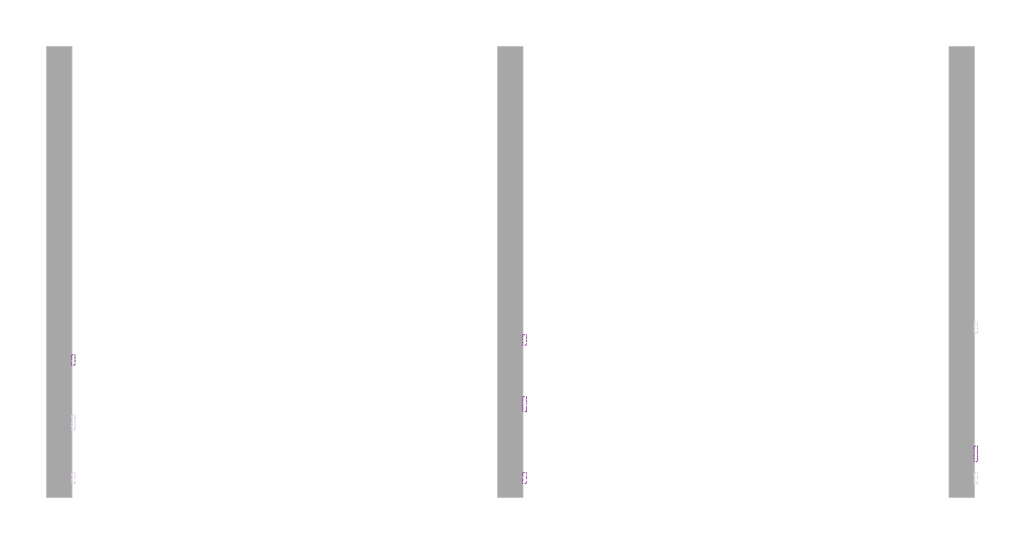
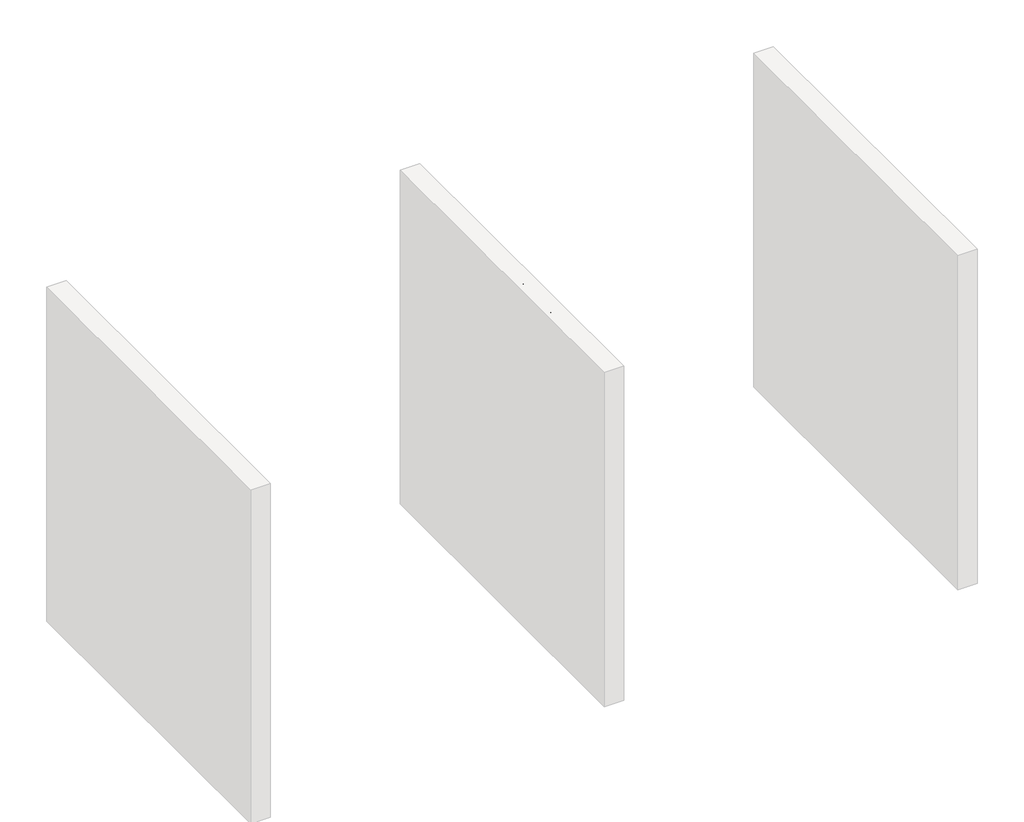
# One storey, part 2 of 17: 5 proxies.
"""IFC4 building model written with IfcOpenShell, lengths in millimetres."""

from ifc_helpers import new_model, si_unit, frame, origin, place, context, project, spatial, polyline, outline, extrude, element, save

model = new_model("IFC4")

# Units and contexts
model_context = context("Model", 3, world=origin())
ifc_project = project(units=[si_unit("LENGTHUNIT", "METRE", prefix="MILLI")], contexts=[model_context])

# Site, building, storey
site = spatial("IfcSite", under=ifc_project)
building = spatial("IfcBuilding", under=site)
storey = spatial("IfcBuildingStorey", under=building, Name="PORTOBELLO - SHOWROOM", Elevation=0.0)

# Proxies
placement = place(None, origin())
element("IfcBuildingElementProxy", 1, Name="10mm Arial", ObjectType="10mm Arial", at=placement, inside=storey, context=model_context, shape_type="SweptSolid", body=[
    extrude(outline(polyline([(-7615.2757787, 2518.4745677), (-7655.2277634, 2618.9308778), (-7641.7878078, 2618.9308778), (-7615.030524, 2546.5562266), (-7609.610396, 2530.2467915), (-7604.2638443, 2546.5562266), (-7577.4329841, 2618.9308778), (-7564.017554, 2618.9308778), (-7602.3263325, 2518.4745677), (-7615.2757787, 2518.4745677)])), frame((-13022.2794626, 0.0, 0.0), z_axis=(1.0, 0.0, 0.0), x_axis=(0.0, 1.0, 0.0)), (0.0, 0.0, 1.0), 20.0),
    extrude(outline(polyline([(-7502.2379043, 2540.4493855), (-7489.9261202, 2538.8797557), (-7494.3621639, 2529.602998), (-7501.4408267, 2522.6684224), (-7511.0026929, 2518.345809), (-7522.888347, 2516.9049378), (-7537.6220209, 2519.391207), (-7548.9589177, 2526.8500144), (-7556.1877989, 2538.7969822), (-7558.597426, 2554.7477324), (-7556.1632734, 2571.2349771), (-7548.8608158, 2583.5651553), (-7537.6772032, 2591.253889), (-7523.5995855, 2593.8168003), (-7509.9603605, 2591.2600204), (-7499.0618564, 2583.5896808), (-7491.9157487, 2571.2840281), (-7489.5337128, 2554.8213088), (-7489.6072892, 2551.4367944), (-7546.0403872, 2551.4367944), (-7543.8668178, 2542.0374095), (-7538.8176374, 2535.1273593), (-7531.5305082, 2530.8783223), (-7522.6430923, 2529.4619766), (-7510.3313082, 2532.0862015), (-7502.2379043, 2540.4493855)]), holes=[polyline([(-7546.0403872, 2563.9938332), (-7502.0907515, 2563.9938332), (-7507.1184721, 2575.3736496), (-7514.4393238, 2579.7882335), (-7523.6486364, 2581.2597615), (-7539.111943, 2576.5631347), (-7543.9771824, 2571.0724959), (-7546.0403872, 2563.9938332)])]), frame((-13022.2794626, 0.0, 0.0), z_axis=(1.0, 0.0, 0.0), x_axis=(0.0, 1.0, 0.0)), (0.0, 0.0, 1.0), 20.0),
    extrude(outline(polyline([(-13002.2794626, -7464.4196352), (-13002.2794626, -7476.976674), (-13022.2794626, -7476.976674), (-13022.2794626, -7464.4196352), (-13002.2794626, -7464.4196352)])), frame((0.0, 0.0, 2518.4745677), z_axis=(0.0, 0.0, 1.0), x_axis=(1.0, 0.0, 0.0)), (0.0, 0.0, 1.0), 100.4563101),
    extrude(outline(polyline([(-7427.435232, 2518.4745677), (-7453.4322263, 2592.2471704), (-7440.163949, 2592.2471704), (-7424.4185996, 2548.0522801), (-7419.6851846, 2533.1898475), (-7415.0498715, 2547.2184142), (-7399.2309457, 2592.2471704), (-7385.9381429, 2592.2471704), (-7411.5672552, 2518.4745677), (-7427.435232, 2518.4745677)])), frame((-13022.2794626, 0.0, 0.0), z_axis=(1.0, 0.0, 0.0), x_axis=(0.0, 1.0, 0.0)), (0.0, 0.0, 1.0), 20.0),
    extrude(outline(polyline([(-7323.3001019, 2540.4493855), (-7310.9883178, 2538.8797557), (-7315.4243615, 2529.602998), (-7322.5030242, 2522.6684224), (-7332.0648904, 2518.345809), (-7343.9505445, 2516.9049378), (-7358.6842184, 2519.391207), (-7370.0211153, 2526.8500144), (-7377.2499965, 2538.7969822), (-7379.6596235, 2554.7477324), (-7377.225471, 2571.2349771), (-7369.9230134, 2583.5651553), (-7358.7394007, 2591.253889), (-7344.6617831, 2593.8168003), (-7331.0225581, 2591.2600204), (-7320.124054, 2583.5896808), (-7312.9779462, 2571.2840281), (-7310.5959103, 2554.8213088), (-7310.6694867, 2551.4367944), (-7367.1025848, 2551.4367944), (-7364.9290153, 2542.0374095), (-7359.8798349, 2535.1273593), (-7352.5927057, 2530.8783223), (-7343.7052899, 2529.4619766), (-7331.3935058, 2532.0862015), (-7323.3001019, 2540.4493855)]), holes=[polyline([(-7367.1025848, 2563.9938332), (-7323.1529491, 2563.9938332), (-7328.1806697, 2575.3736496), (-7335.5015214, 2579.7882335), (-7344.710834, 2581.2597615), (-7360.1741405, 2576.5631347), (-7365.0393799, 2571.0724959), (-7367.1025848, 2563.9938332)])]), frame((-13022.2794626, 0.0, 0.0), z_axis=(1.0, 0.0, 0.0), x_axis=(0.0, 1.0, 0.0)), (0.0, 0.0, 1.0), 20.0),
    extrude(outline(polyline([(-7271.3551641, 2528.9469418), (-7269.7855343, 2518.1066857), (-7279.1787879, 2516.9049378), (-7289.700213, 2518.9896025), (-7294.9486628, 2524.4587815), (-7296.4692417, 2538.7080774), (-7296.4692417, 2579.6901317), (-7305.8870208, 2579.6901317), (-7305.8870208, 2592.2471704), (-7296.4692417, 2592.2471704), (-7296.4692417, 2610.1752863), (-7283.9122029, 2617.5574517), (-7283.9122029, 2592.2471704), (-7271.3551641, 2592.2471704), (-7271.3551641, 2579.6901317), (-7283.9122029, 2579.6901317), (-7283.9122029, 2539.0759594), (-7283.2500153, 2532.6012363), (-7281.104037, 2530.3081052), (-7276.8243431, 2529.4619766), (-7271.3551641, 2528.9469418)])), frame((-13022.2794626, 0.0, 0.0), z_axis=(1.0, 0.0, 0.0), x_axis=(0.0, 1.0, 0.0)), (0.0, 0.0, 1.0), 20.0),
    extrude(outline(polyline([(-7170.898854, 2557.7153138), (-7170.898854, 2570.2723526), (-7130.088478, 2570.2723526), (-7130.088478, 2532.7238636), (-7150.2361486, 2520.8780634), (-7171.5365161, 2516.9049378), (-7185.6233309, 2518.4837647), (-7198.3551136, 2523.2202454), (-7208.9317209, 2530.948833), (-7216.5530096, 2541.5039806), (-7221.1607316, 2554.1652526), (-7222.6966389, 2568.2122134), (-7221.166863, 2582.3603418), (-7216.5775351, 2595.5213202), (-7209.1187276, 2606.5608457), (-7198.980513, 2614.3446156), (-7186.6319407, 2618.9615346), (-7172.5420602, 2620.5005077), (-7152.8971617, 2616.9320523), (-7139.1261123, 2606.9992384), (-7131.5354805, 2590.383235), (-7143.1115006, 2587.121348), (-7148.838197, 2598.7341563), (-7158.6238581, 2605.4296086), (-7172.738264, 2607.9434689), (-7188.8147072, 2605.2334049), (-7199.7530652, 2598.1210196), (-7206.2155255, 2588.4457231), (-7210.1396001, 2568.7272482), (-7205.4184479, 2546.8382695), (-7191.6841867, 2533.7416705), (-7172.5420602, 2529.4619766), (-7155.3619711, 2532.6870754), (-7142.6455168, 2539.5664687), (-7142.6455168, 2557.7153138), (-7170.898854, 2557.7153138)])), frame((-13022.2794626, 0.0, 0.0), z_axis=(1.0, 0.0, 0.0), x_axis=(0.0, 1.0, 0.0)), (0.0, 0.0, 1.0), 20.0),
    extrude(outline(polyline([(-7111.2529198, 2518.4745677), (-7111.2529198, 2592.2471704), (-7100.2655109, 2592.2471704), (-7100.2655109, 2581.3333379), (-7092.4664126, 2591.3887791), (-7084.6182634, 2593.8168003), (-7072.0121737, 2589.9417766), (-7076.2060284, 2578.6845875), (-7085.0351963, 2581.2597615), (-7092.1353188, 2578.7826894), (-7096.6602674, 2571.9155588), (-7098.6958811, 2557.24933), (-7098.6958811, 2518.4745677), (-7111.2529198, 2518.4745677)])), frame((-13022.2794626, 0.0, 0.0), z_axis=(1.0, 0.0, 0.0), x_axis=(0.0, 1.0, 0.0)), (0.0, 0.0, 1.0), 20.0),
    extrude(outline(polyline([(-7017.0751291, 2527.8923467), (-7029.2520231, 2519.3820099), (-7042.7042414, 2516.9049378), (-7053.1980753, 2518.3948599), (-7060.9389256, 2522.8646261), (-7065.7121945, 2529.6520489), (-7067.3032842, 2538.0949407), (-7064.8997885, 2548.0277546), (-7058.5844809, 2555.2382417), (-7049.7921012, 2559.3585201), (-7038.9273196, 2561.246981), (-7017.1487055, 2565.563463), (-7017.0751291, 2568.3593662), (-7020.5332198, 2577.6299925), (-7034.4146338, 2581.2597615), (-7047.1188254, 2578.8440031), (-7053.1766155, 2570.2723526), (-7065.7336543, 2571.8419824), (-7060.3012635, 2584.1047156), (-7049.3629055, 2591.2906772), (-7032.795953, 2593.8168003), (-7017.5779011, 2591.5849828), (-7008.9817252, 2585.9809138), (-7005.131227, 2577.4583142), (-7004.5180903, 2566.4709053), (-7004.5180903, 2550.8481832), (-7003.8804282, 2529.0327809), (-7001.3788306, 2518.4745677), (-7013.9358694, 2518.4745677), (-7017.0751291, 2527.8923467)]), holes=[polyline([(-7017.0751291, 2553.0064243), (-7037.3331643, 2549.1559261), (-7048.1366322, 2547.1203124), (-7053.0294627, 2543.8093744), (-7054.7462454, 2538.9778575), (-7051.0061118, 2532.1843033), (-7040.0309656, 2529.4619766), (-7027.326774, 2532.4663462), (-7019.1352683, 2539.738147), (-7017.1487055, 2549.4502317), (-7017.0751291, 2553.0064243)])]), frame((-13022.2794626, 0.0, 0.0), z_axis=(1.0, 0.0, 0.0), x_axis=(0.0, 1.0, 0.0)), (0.0, 0.0, 1.0), 20.0),
    extrude(outline(polyline([(-6984.1129023, 2518.4745677), (-6984.1129023, 2579.6901317), (-6995.1003112, 2579.6901317), (-6995.1003112, 2592.2471704), (-6984.1129023, 2592.2471704), (-6984.1129023, 2599.6783867), (-6982.7885271, 2610.1507609), (-6976.3628549, 2617.6310281), (-6963.7077143, 2620.5005077), (-6952.2543215, 2619.1270815), (-6954.0937315, 2607.3548577), (-6961.3287441, 2607.9434689), (-6969.238207, 2605.8588043), (-6971.5558635, 2598.0842314), (-6971.5558635, 2592.2471704), (-6957.4291949, 2592.2471704), (-6957.4291949, 2579.6901317), (-6971.5558635, 2579.6901317), (-6971.5558635, 2518.4745677), (-6984.1129023, 2518.4745677)])), frame((-13022.2794626, 0.0, 0.0), z_axis=(1.0, 0.0, 0.0), x_axis=(0.0, 1.0, 0.0)), (0.0, 0.0, 1.0), 20.0),
    extrude(outline(polyline([(-6943.3025263, 2518.4745677), (-6943.3025263, 2579.6901317), (-6954.2899352, 2579.6901317), (-6954.2899352, 2592.2471704), (-6943.3025263, 2592.2471704), (-6943.3025263, 2599.6783867), (-6941.9781511, 2610.1507609), (-6935.5524789, 2617.6310281), (-6922.8973383, 2620.5005077), (-6911.4439455, 2619.1270815), (-6913.2833555, 2607.3548577), (-6920.5183681, 2607.9434689), (-6928.427831, 2605.8588043), (-6930.7454875, 2598.0842314), (-6930.7454875, 2592.2471704), (-6916.6188189, 2592.2471704), (-6916.6188189, 2579.6901317), (-6930.7454875, 2579.6901317), (-6930.7454875, 2518.4745677), (-6943.3025263, 2518.4745677)])), frame((-13022.2794626, 0.0, 0.0), z_axis=(1.0, 0.0, 0.0), x_axis=(0.0, 1.0, 0.0)), (0.0, 0.0, 1.0), 20.0),
    extrude(outline(polyline([(-13002.2794626, -6893.0743712), (-13002.2794626, -6905.63141), (-13022.2794626, -6905.63141), (-13022.2794626, -6893.0743712), (-13002.2794626, -6893.0743712)])), frame((0.0, 0.0, 2606.373839), z_axis=(0.0, 0.0, 1.0), x_axis=(1.0, 0.0, 0.0)), (0.0, 0.0, 1.0), 12.5570388),
    extrude(outline(polyline([(-13002.2794626, -6893.0743712), (-13002.2794626, -6905.63141), (-13022.2794626, -6905.63141), (-13022.2794626, -6893.0743712), (-13002.2794626, -6893.0743712)])), frame((0.0, 0.0, 2518.4745677), z_axis=(0.0, 0.0, 1.0), x_axis=(1.0, 0.0, 0.0)), (0.0, 0.0, 1.0), 73.7726028),
])
element("IfcBuildingElementProxy", 2, Name="10mm Arial", ObjectType="10mm Arial", at=placement, inside=storey, context=model_context, shape_type="SweptSolid", body=[
    extrude(outline(polyline([(-7656.6011895, 2518.4745677), (-7616.502052, 2618.9308778), (-7605.8089487, 2618.9308778), (-7565.7343367, 2518.4745677), (-7579.002614, 2518.4745677), (-7590.4805322, 2549.8671646), (-7631.8795194, 2549.8671646), (-7643.3574377, 2518.4745677), (-7656.6011895, 2518.4745677)]), holes=[polyline([(-7627.2687317, 2562.4242034), (-7595.0667944, 2562.4242034), (-7604.141217, 2587.121348), (-7611.1800258, 2606.373839), (-7617.4340197, 2589.279589), (-7627.2687317, 2562.4242034)])]), frame((-10322.2794626, 0.0, 0.0), z_axis=(1.0, 0.0, 0.0), x_axis=(0.0, 1.0, 0.0)), (0.0, 0.0, 1.0), 20.0),
    extrude(outline(polyline([(-10302.2794626, -7541.3314977), (-10302.2794626, -7553.8885364), (-10322.2794626, -7553.8885364), (-10322.2794626, -7541.3314977), (-10302.2794626, -7541.3314977)])), frame((0.0, 0.0, 2518.4745677), z_axis=(0.0, 0.0, 1.0), x_axis=(1.0, 0.0, 0.0)), (0.0, 0.0, 1.0), 100.4563101),
    extrude(outline(polyline([(-7522.4959395, 2518.4745677), (-7522.4959395, 2592.2471704), (-7509.9389008, 2592.2471704), (-7509.9389008, 2580.1070646), (-7501.3059366, 2590.0521412), (-7489.018678, 2593.8168003), (-7476.4371137, 2589.9785648), (-7469.5209322, 2579.2241478), (-7459.7230084, 2590.1686372), (-7447.3499106, 2593.8168003), (-7437.9106718, 2592.299287), (-7430.9301109, 2587.7467474), (-7426.6166945, 2580.0365539), (-7425.1788891, 2569.0460793), (-7425.1788891, 2518.4745677), (-7437.7359278, 2518.4745677), (-7437.7359278, 2563.6504767), (-7438.9008875, 2574.1351135), (-7443.1192677, 2579.2977242), (-7450.2929666, 2581.2597615), (-7462.6415389, 2576.2320409), (-7466.3295559, 2569.6898728), (-7467.5588949, 2560.1188095), (-7467.5588949, 2518.4745677), (-7480.1159337, 2518.4745677), (-7480.1159337, 2565.0484283), (-7483.0222014, 2577.2130596), (-7492.5503451, 2581.2597615), (-7501.8454969, 2578.5619602), (-7508.0259144, 2570.66476), (-7509.9389008, 2555.6797001), (-7509.9389008, 2518.4745677), (-7522.4959395, 2518.4745677)])), frame((-10322.2794626, 0.0, 0.0), z_axis=(1.0, 0.0, 0.0), x_axis=(0.0, 1.0, 0.0)), (0.0, 0.0, 1.0), 20.0),
    extrude(outline(polyline([(-7409.4825906, 2555.360869), (-7406.7663952, 2573.1479635), (-7398.617809, 2585.64982), (-7388.5501051, 2591.7750552), (-7376.4958384, 2593.8168003), (-7363.3042032, 2591.3305311), (-7352.7674497, 2583.8717237), (-7345.8604652, 2572.0289891), (-7343.5581371, 2556.3909386), (-7347.6293645, 2534.0482388), (-7359.4874275, 2521.4053609), (-7376.4958384, 2516.9049378), (-7389.8468891, 2519.3820099), (-7400.3713799, 2526.8132262), (-7407.2047879, 2538.9042811), (-7409.4825906, 2555.360869)]), holes=[polyline([(-7396.9255518, 2555.3853945), (-7395.472418, 2544.0209065), (-7391.1130163, 2535.924437), (-7384.5524541, 2531.0775917), (-7376.4958384, 2529.4619766), (-7368.4760109, 2531.0867887), (-7361.9277114, 2535.9612252), (-7357.5683097, 2544.1649937), (-7356.1151758, 2555.777802), (-7357.5775068, 2566.8111961), (-7361.9644996, 2574.7973011), (-7368.5219961, 2579.6441464), (-7376.4958384, 2581.2597615), (-7384.5524541, 2579.6502778), (-7391.1130163, 2574.8218266), (-7395.472418, 2566.7437511), (-7396.9255518, 2555.3853945)])]), frame((-10322.2794626, 0.0, 0.0), z_axis=(1.0, 0.0, 0.0), x_axis=(0.0, 1.0, 0.0)), (0.0, 0.0, 1.0), 20.0),
    extrude(outline(polyline([(-7329.4314685, 2518.4745677), (-7329.4314685, 2592.2471704), (-7316.8744297, 2592.2471704), (-7316.8744297, 2581.9464746), (-7307.2727096, 2590.8492188), (-7294.1638478, 2593.8168003), (-7282.3057849, 2591.4255673), (-7274.212381, 2585.1470479), (-7270.4477219, 2575.9132098), (-7269.7855343, 2563.773104), (-7269.7855343, 2518.4745677), (-7282.3425731, 2518.4745677), (-7282.3425731, 2562.0808468), (-7283.7895756, 2573.1908831), (-7288.9031353, 2579.0647323), (-7297.5238367, 2581.2597615), (-7311.1477333, 2576.3301428), (-7315.4427556, 2569.1871007), (-7316.8744297, 2557.6172119), (-7316.8744297, 2518.4745677), (-7329.4314685, 2518.4745677)])), frame((-10322.2794626, 0.0, 0.0), z_axis=(1.0, 0.0, 0.0), x_axis=(0.0, 1.0, 0.0)), (0.0, 0.0, 1.0), 20.0),
    extrude(outline(polyline([(-7207.0003405, 2518.4745677), (-7207.0003405, 2530.3203679), (-7215.3083422, 2520.2587953), (-7226.7923918, 2516.9049378), (-7242.3415375, 2521.7609802), (-7253.3289464, 2535.3113003), (-7257.2284955, 2555.2872926), (-7253.6355147, 2575.2755477), (-7242.868835, 2589.0343343), (-7226.8414427, 2593.8168003), (-7215.2654226, 2590.3954977), (-7207.0003405, 2581.5050162), (-7207.0003405, 2618.9308778), (-7194.4433017, 2618.9308778), (-7194.4433017, 2518.4745677), (-7207.0003405, 2518.4745677)]), holes=[polyline([(-7244.6714568, 2555.3363436), (-7243.2551111, 2543.977987), (-7239.006074, 2535.8999115), (-7232.8317879, 2531.0714603), (-7225.6396949, 2529.4619766), (-7218.4506676, 2530.9978839), (-7212.4327313, 2535.6056059), (-7208.3584382, 2543.3709817), (-7207.0003405, 2554.3798504), (-7208.3829636, 2566.415723), (-7212.5308331, 2574.7605129), (-7218.7020536, 2579.6349494), (-7226.1547297, 2581.2597615), (-7233.4203991, 2579.6993287), (-7239.373956, 2575.0180303), (-7243.3470816, 2566.976743), (-7244.6714568, 2555.3363436)])]), frame((-10322.2794626, 0.0, 0.0), z_axis=(1.0, 0.0, 0.0), x_axis=(0.0, 1.0, 0.0)), (0.0, 0.0, 1.0), 20.0),
    extrude(outline(polyline([(-7087.7084722, 2557.7153138), (-7087.7084722, 2570.2723526), (-7046.8980962, 2570.2723526), (-7046.8980962, 2532.7238636), (-7067.0457668, 2520.8780634), (-7088.3461343, 2516.9049378), (-7102.432949, 2518.4837647), (-7115.1647317, 2523.2202454), (-7125.7413391, 2530.948833), (-7133.3626278, 2541.5039806), (-7137.9703497, 2554.1652526), (-7139.5062571, 2568.2122134), (-7137.9764811, 2582.3603418), (-7133.3871532, 2595.5213202), (-7125.9283458, 2606.5608457), (-7115.7901311, 2614.3446156), (-7103.4415588, 2618.9615346), (-7089.3516784, 2620.5005077), (-7069.7067799, 2616.9320523), (-7055.9357305, 2606.9992384), (-7048.3450987, 2590.383235), (-7059.9211188, 2587.121348), (-7065.6478152, 2598.7341563), (-7075.4334762, 2605.4296086), (-7089.5478821, 2607.9434689), (-7105.6243253, 2605.2334049), (-7116.5626833, 2598.1210196), (-7123.0251437, 2588.4457231), (-7126.9492183, 2568.7272482), (-7122.228066, 2546.8382695), (-7108.4938049, 2533.7416705), (-7089.3516784, 2529.4619766), (-7072.1715892, 2532.6870754), (-7059.4551349, 2539.5664687), (-7059.4551349, 2557.7153138), (-7087.7084722, 2557.7153138)])), frame((-10322.2794626, 0.0, 0.0), z_axis=(1.0, 0.0, 0.0), x_axis=(0.0, 1.0, 0.0)), (0.0, 0.0, 1.0), 20.0),
    extrude(outline(polyline([(-7028.062538, 2518.4745677), (-7028.062538, 2592.2471704), (-7017.0751291, 2592.2471704), (-7017.0751291, 2581.3333379), (-7009.2760308, 2591.3887791), (-7001.4278816, 2593.8168003), (-6988.8217919, 2589.9417766), (-6993.0156466, 2578.6845875), (-7001.8448145, 2581.2597615), (-7008.944937, 2578.7826894), (-7013.4698855, 2571.9155588), (-7015.5054992, 2557.24933), (-7015.5054992, 2518.4745677), (-7028.062538, 2518.4745677)])), frame((-10322.2794626, 0.0, 0.0), z_axis=(1.0, 0.0, 0.0), x_axis=(0.0, 1.0, 0.0)), (0.0, 0.0, 1.0), 20.0),
    extrude(outline(polyline([(-6933.8847472, 2527.8923467), (-6946.0616413, 2519.3820099), (-6959.5138596, 2516.9049378), (-6970.0076935, 2518.3948599), (-6977.7485438, 2522.8646261), (-6982.5218127, 2529.6520489), (-6984.1129023, 2538.0949407), (-6981.7094066, 2548.0277546), (-6975.394099, 2555.2382417), (-6966.6017193, 2559.3585201), (-6955.7369378, 2561.246981), (-6933.9583236, 2565.563463), (-6933.8847472, 2568.3593662), (-6937.342838, 2577.6299925), (-6951.2242519, 2581.2597615), (-6963.9284435, 2578.8440031), (-6969.9862337, 2570.2723526), (-6982.5432725, 2571.8419824), (-6977.1108817, 2584.1047156), (-6966.1725237, 2591.2906772), (-6949.6055712, 2593.8168003), (-6934.3875193, 2591.5849828), (-6925.7913433, 2585.9809138), (-6921.9408451, 2577.4583142), (-6921.3277085, 2566.4709053), (-6921.3277085, 2550.8481832), (-6920.6900463, 2529.0327809), (-6918.1884488, 2518.4745677), (-6930.7454875, 2518.4745677), (-6933.8847472, 2527.8923467)]), holes=[polyline([(-6933.8847472, 2553.0064243), (-6954.1427824, 2549.1559261), (-6964.9462504, 2547.1203124), (-6969.8390809, 2543.8093744), (-6971.5558635, 2538.9778575), (-6967.8157299, 2532.1843033), (-6956.8405837, 2529.4619766), (-6944.1363922, 2532.4663462), (-6935.9448864, 2539.738147), (-6933.9583236, 2549.4502317), (-6933.8847472, 2553.0064243)])]), frame((-10322.2794626, 0.0, 0.0), z_axis=(1.0, 0.0, 0.0), x_axis=(0.0, 1.0, 0.0)), (0.0, 0.0, 1.0), 20.0),
    extrude(outline(polyline([(-6860.1121445, 2518.4745677), (-6860.1121445, 2579.6901317), (-6871.0995534, 2579.6901317), (-6871.0995534, 2592.2471704), (-6860.1121445, 2592.2471704), (-6860.1121445, 2599.6783867), (-6858.7877693, 2610.1507609), (-6852.3620971, 2617.6310281), (-6839.7069565, 2620.5005077), (-6828.2535637, 2619.1270815), (-6830.0929737, 2607.3548577), (-6837.3279862, 2607.9434689), (-6845.2374491, 2605.8588043), (-6847.5551057, 2598.0842314), (-6847.5551057, 2592.2471704), (-6833.4284371, 2592.2471704), (-6833.4284371, 2579.6901317), (-6847.5551057, 2579.6901317), (-6847.5551057, 2518.4745677), (-6860.1121445, 2518.4745677)])), frame((-10322.2794626, 0.0, 0.0), z_axis=(1.0, 0.0, 0.0), x_axis=(0.0, 1.0, 0.0)), (0.0, 0.0, 1.0), 20.0),
    extrude(outline(polyline([(-6900.9225205, 2518.4745677), (-6900.9225205, 2579.6901317), (-6911.9099294, 2579.6901317), (-6911.9099294, 2592.2471704), (-6900.9225205, 2592.2471704), (-6900.9225205, 2599.6783867), (-6899.5981453, 2610.1507609), (-6893.1724731, 2617.6310281), (-6880.5173325, 2620.5005077), (-6869.0639397, 2619.1270815), (-6870.9033497, 2607.3548577), (-6878.1383622, 2607.9434689), (-6886.0478251, 2605.8588043), (-6888.3654817, 2598.0842314), (-6888.3654817, 2592.2471704), (-6874.2388131, 2592.2471704), (-6874.2388131, 2579.6901317), (-6888.3654817, 2579.6901317), (-6888.3654817, 2518.4745677), (-6900.9225205, 2518.4745677)])), frame((-10322.2794626, 0.0, 0.0), z_axis=(1.0, 0.0, 0.0), x_axis=(0.0, 1.0, 0.0)), (0.0, 0.0, 1.0), 20.0),
    extrude(outline(polyline([(-10302.2794626, -6809.8839894), (-10302.2794626, -6822.4410282), (-10322.2794626, -6822.4410282), (-10322.2794626, -6809.8839894), (-10302.2794626, -6809.8839894)])), frame((0.0, 0.0, 2606.373839), z_axis=(0.0, 0.0, 1.0), x_axis=(1.0, 0.0, 0.0)), (0.0, 0.0, 1.0), 12.5570388),
    extrude(outline(polyline([(-10302.2794626, -6809.8839894), (-10302.2794626, -6822.4410282), (-10322.2794626, -6822.4410282), (-10322.2794626, -6809.8839894), (-10302.2794626, -6809.8839894)])), frame((0.0, 0.0, 2518.4745677), z_axis=(0.0, 0.0, 1.0), x_axis=(1.0, 0.0, 0.0)), (0.0, 0.0, 1.0), 73.7726028),
])
element("IfcBuildingElementProxy", 3, Name="10mm Arial", ObjectType="10mm Arial", at=placement, inside=storey, context=model_context, shape_type="SweptSolid", body=[
    extrude(outline(polyline([(-7608.8255811, 2393.4745677), (-7608.8255811, 2417.0190154), (-7654.3448466, 2417.0190154), (-7654.3448466, 2429.5760541), (-7605.6863214, 2492.361248), (-7596.2685423, 2492.361248), (-7596.2685423, 2429.5760541), (-7583.7115035, 2429.5760541), (-7583.7115035, 2417.0190154), (-7596.2685423, 2417.0190154), (-7596.2685423, 2393.4745677), (-7608.8255811, 2393.4745677)]), holes=[polyline([(-7608.8255811, 2429.5760541), (-7608.8255811, 2468.3753419), (-7638.8938028, 2429.5760541), (-7608.8255811, 2429.5760541)])]), frame((-13022.2794626, 0.0, 0.0), z_axis=(1.0, 0.0, 0.0), x_axis=(0.0, 1.0, 0.0)), (0.0, 0.0, 1.0), 20.0),
    extrude(outline(polyline([(-7572.7240946, 2420.158275), (-7560.1670558, 2421.7279049), (-7553.8394855, 2408.7907214), (-7540.718361, 2404.4619766), (-7531.7175149, 2405.9672271), (-7524.9730116, 2410.4829786), (-7520.7607628, 2417.4880649), (-7519.3566798, 2426.4613199), (-7524.6173924, 2441.3728034), (-7531.2239399, 2445.4746877), (-7540.5221573, 2446.8419824), (-7551.5463544, 2444.6592159), (-7558.597426, 2438.9938332), (-7571.1544648, 2440.563463), (-7560.1670558, 2492.361248), (-7511.5085306, 2492.361248), (-7511.5085306, 2479.8042092), (-7550.0135128, 2479.8042092), (-7555.4091154, 2452.1394832), (-7546.438926, 2457.5841367), (-7537.0395411, 2459.3990212), (-7525.3041054, 2457.1488097), (-7515.5552325, 2450.3981751), (-7508.9885389, 2440.1097419), (-7506.7996411, 2427.2461348), (-7508.7678097, 2414.6890961), (-7514.6723158, 2403.9469418), (-7525.9785557, 2394.9154388), (-7540.7674119, 2391.9049378), (-7553.1006558, 2393.839384), (-7562.9261708, 2399.6427224), (-7569.661477, 2408.6405029), (-7572.7240946, 2420.158275)])), frame((-13022.2794626, 0.0, 0.0), z_axis=(1.0, 0.0, 0.0), x_axis=(0.0, 1.0, 0.0)), (0.0, 0.0, 1.0), 20.0),
    extrude(outline(polyline([(-7500.5211217, 2393.4745677), (-7473.6902615, 2430.5815982), (-7498.9514918, 2467.2471704), (-7483.8928555, 2467.2471704), (-7471.7036987, 2449.5643092), (-7465.9892651, 2441.2501761), (-7461.0351209, 2448.0682557), (-7447.1537069, 2467.2471704), (-7432.0460196, 2467.2471704), (-7458.5825742, 2430.5570728), (-7433.0270383, 2393.4745677), (-7448.1102001, 2393.4745677), (-7463.512193, 2415.792742), (-7466.3080961, 2419.8884949), (-7485.4134344, 2393.4745677), (-7500.5211217, 2393.4745677)])), frame((-13022.2794626, 0.0, 0.0), z_axis=(1.0, 0.0, 0.0), x_axis=(0.0, 1.0, 0.0)), (0.0, 0.0, 1.0), 20.0),
    extrude(outline(polyline([(-7378.0899937, 2393.4745677), (-7390.6470325, 2393.4745677), (-7390.6470325, 2471.7598562), (-7402.5418836, 2463.2863076), (-7415.76111, 2456.9464746), (-7415.76111, 2468.8168003), (-7397.3547475, 2480.5644987), (-7386.1833976, 2493.9308778), (-7378.0899937, 2493.9308778), (-7378.0899937, 2393.4745677)])), frame((-13022.2794626, 0.0, 0.0), z_axis=(1.0, 0.0, 0.0), x_axis=(0.0, 1.0, 0.0)), (0.0, 0.0, 1.0), 20.0),
    extrude(outline(polyline([(-7283.9122029, 2406.0316064), (-7283.9122029, 2393.4745677), (-7349.8366565, 2393.4745677), (-7348.4877558, 2402.1320573), (-7340.848073, 2415.4616482), (-7325.1149864, 2430.0175125), (-7303.4467369, 2450.9377353), (-7298.0388715, 2465.1625058), (-7303.1524313, 2476.6772122), (-7316.5065477, 2481.373839), (-7330.4247498, 2476.7875768), (-7335.7099878, 2464.1079107), (-7348.2670266, 2465.6775406), (-7345.2228031, 2477.8237778), (-7338.6407811, 2486.6958652), (-7328.864317, 2492.1221247), (-7316.2367676, 2493.9308778), (-7303.5172476, 2491.9197896), (-7293.7591777, 2485.8865249), (-7287.551169, 2476.873416), (-7285.4818328, 2465.9227952), (-7287.7136502, 2454.0156813), (-7295.1326038, 2441.7038972), (-7313.1220333, 2424.4992826), (-7327.567533, 2412.4204904), (-7333.2329157, 2406.0316064), (-7283.9122029, 2406.0316064)])), frame((-13022.2794626, 0.0, 0.0), z_axis=(1.0, 0.0, 0.0), x_axis=(0.0, 1.0, 0.0)), (0.0, 0.0, 1.0), 20.0),
    extrude(outline(polyline([(-7271.3551641, 2442.8933823), (-7267.6640815, 2471.7966444), (-7256.701198, 2488.4616988), (-7238.3929374, 2493.9308778), (-7223.7267085, 2490.6935163), (-7213.5976909, 2481.3615763), (-7207.711579, 2466.4991437), (-7205.4307106, 2442.8933823), (-7209.0850051, 2414.1127476), (-7220.0111004, 2397.410905), (-7228.24246, 2393.2814296), (-7238.3929374, 2391.9049378), (-7251.4404855, 2394.2961708), (-7261.3487739, 2401.4698697), (-7268.8535666, 2418.4598865), (-7271.3551641, 2442.8933823)]), holes=[polyline([(-7258.7981254, 2442.9179078), (-7257.3265974, 2423.1657104), (-7252.9120135, 2411.7337774), (-7246.3391885, 2406.2799268), (-7238.3929374, 2404.4619766), (-7230.4466863, 2406.2860581), (-7223.8738613, 2411.7583028), (-7219.4592774, 2423.1963672), (-7217.9877494, 2442.9179078), (-7219.4102264, 2462.2255812), (-7223.6776576, 2473.746419), (-7230.2382198, 2479.466984), (-7238.5400902, 2481.373839), (-7246.4005021, 2479.6938446), (-7252.7158097, 2474.6538613), (-7257.2775465, 2462.4156536), (-7258.7981254, 2442.9179078)])]), frame((-13022.2794626, 0.0, 0.0), z_axis=(1.0, 0.0, 0.0), x_axis=(0.0, 1.0, 0.0)), (0.0, 0.0, 1.0), 20.0),
])
element("IfcBuildingElementProxy", 4, Name="10mm Arial Narrow", ObjectType="10mm Arial Narrow", at=placement, inside=storey, context=model_context, shape_type="SweptSolid", body=[
    extrude(outline(polyline([(-6823.7471538, 2518.4745677), (-6823.7471538, 2619.1931714), (-6792.4502692, 2619.1931714), (-6776.1545677, 2617.3148507), (-6764.6815815, 2607.8344075), (-6760.3919031, 2590.8152987), (-6762.1782115, 2578.7394731), (-6767.5371367, 2569.1130794), (-6777.2809255, 2562.811821), (-6792.2218248, 2560.7114015), (-6814.0001922, 2560.7114015), (-6814.0001922, 2518.4745677), (-6823.7471538, 2518.4745677)]), holes=[polyline([(-6814.0001922, 2572.0828568), (-6791.0288373, 2572.0828568), (-6775.1646419, 2576.613671), (-6770.1388648, 2590.2822617), (-6772.6136792, 2600.4480381), (-6778.5913081, 2606.247988), (-6791.2572817, 2607.8217162), (-6814.0001922, 2607.8217162), (-6814.0001922, 2572.0828568)])]), frame((-13022.2794626, 0.0, 0.0), z_axis=(1.0, 0.0, 0.0), x_axis=(0.0, 1.0, 0.0)), (0.0, 0.0, 1.0), 20.0),
    extrude(outline(polyline([(-6752.2694351, 2555.0256739), (-6750.3149662, 2571.6164494), (-6744.4515596, 2583.5685342), (-6735.5929929, 2590.7930888), (-6724.6530437, 2593.2012737), (-6713.8400081, 2590.7930888), (-6704.9560587, 2583.5685342), (-6699.0165039, 2571.8068198), (-6697.0366524, 2555.7871552), (-6698.9816027, 2538.6252687), (-6704.8164538, 2526.4828135), (-6713.665502, 2519.2582589), (-6724.6530437, 2516.8500741), (-6735.5136719, 2519.2646046), (-6744.3881028, 2526.5081962), (-6750.299102, 2538.4666267), (-6752.2694351, 2555.0256739)]), holes=[polyline([(-6742.5224734, 2555.0510566), (-6741.2184365, 2542.4993052), (-6737.306326, 2533.6280471), (-6731.4651292, 2528.3547886), (-6724.3738339, 2526.5970357), (-6717.6537607, 2528.3706528), (-6711.9616874, 2533.6915039), (-6708.0781324, 2542.5786262), (-6706.783614, 2555.0510566), (-6708.0876509, 2567.5647339), (-6711.9997615, 2576.4233006), (-6717.8409582, 2581.6965592), (-6724.9322535, 2583.454312), (-6731.6999193, 2581.6870407), (-6737.3824741, 2576.3852265), (-6741.2374736, 2567.5171413), (-6742.5224734, 2555.0510566)])]), frame((-13022.2794626, 0.0, 0.0), z_axis=(1.0, 0.0, 0.0), x_axis=(0.0, 1.0, 0.0)), (0.0, 0.0, 1.0), 20.0),
    extrude(outline(polyline([(-6625.5589336, 2526.5970357), (-6623.93444, 2516.8500741), (-6631.2954266, 2516.8500741), (-6639.5701909, 2518.9695306), (-6643.8852521, 2524.7694804), (-6645.0528569, 2539.4153056), (-6645.0528569, 2581.8298184), (-6653.1753249, 2581.8298184), (-6653.1753249, 2585.0788056), (-6654.7998185, 2580.2053248), (-6662.3638669, 2581.8298184), (-6668.4430266, 2579.5073002), (-6672.3138902, 2573.0220171), (-6674.2937418, 2557.6147106), (-6674.2937418, 2518.4745677), (-6684.0407035, 2518.4745677), (-6684.0407035, 2591.5767801), (-6674.2937418, 2591.5767801), (-6674.2937418, 2581.8805838), (-6668.0495945, 2590.967595), (-6661.6531509, 2593.2012737), (-6653.1753249, 2591.5767801), (-6645.0528569, 2591.5767801), (-6645.0528569, 2607.8217162), (-6635.3058952, 2615.9441842), (-6635.3058952, 2591.5767801), (-6625.5589336, 2591.5767801), (-6625.5589336, 2581.8298184), (-6635.3058952, 2581.8298184), (-6635.3058952, 2537.1816269), (-6634.442883, 2529.1860724), (-6629.8232293, 2526.5970357), (-6625.5589336, 2526.5970357)])), frame((-13022.2794626, 0.0, 0.0), z_axis=(1.0, 0.0, 0.0), x_axis=(0.0, 1.0, 0.0)), (0.0, 0.0, 1.0), 20.0),
    extrude(outline(polyline([(-6619.0609591, 2555.0256739), (-6617.1064903, 2571.6164494), (-6611.2430836, 2583.5685342), (-6602.3845169, 2590.7930888), (-6591.4445678, 2593.2012737), (-6580.6315322, 2590.7930888), (-6571.7475828, 2583.5685342), (-6565.808028, 2571.8068198), (-6563.8281764, 2555.7871552), (-6565.7731268, 2538.6252687), (-6571.6079778, 2526.4828135), (-6580.457026, 2519.2582589), (-6591.4445678, 2516.8500741), (-6602.3051959, 2519.2646046), (-6611.1796269, 2526.5081962), (-6617.0906261, 2538.4666267), (-6619.0609591, 2555.0256739)]), holes=[polyline([(-6609.3139975, 2555.0510566), (-6608.0099606, 2542.4993052), (-6604.09785, 2533.6280471), (-6598.2566533, 2528.3547886), (-6591.1653579, 2526.5970357), (-6584.4452848, 2528.3706528), (-6578.7532115, 2533.6915039), (-6574.8696564, 2542.5786262), (-6573.5751381, 2555.0510566), (-6574.8791749, 2567.5647339), (-6578.7912855, 2576.4233006), (-6584.6324823, 2581.6965592), (-6591.7237776, 2583.454312), (-6598.4914434, 2581.6870407), (-6604.1739982, 2576.3852265), (-6608.0289976, 2567.5171413), (-6609.3139975, 2555.0510566)])]), frame((-13022.2794626, 0.0, 0.0), z_axis=(1.0, 0.0, 0.0), x_axis=(0.0, 1.0, 0.0)), (0.0, 0.0, 1.0), 20.0),
    extrude(outline(polyline([(-6541.0852659, 2518.4745677), (-6550.8322276, 2518.4745677), (-6550.8322276, 2619.1931714), (-6541.0852659, 2619.1931714), (-6541.0852659, 2583.7842873), (-6533.6862052, 2590.8660641), (-6524.4849718, 2593.2012737), (-6511.6032452, 2589.0004347), (-6502.3258637, 2576.2710043), (-6498.8484321, 2555.5840935), (-6500.7806911, 2539.1297501), (-6506.5774681, 2526.927011), (-6514.9505904, 2519.3693083), (-6524.6118854, 2516.8500741), (-6533.9527236, 2519.4644935), (-6541.0852659, 2527.2316035), (-6541.0852659, 2518.4745677)]), holes=[polyline([(-6541.0852659, 2555.5840935), (-6539.0038835, 2538.3365403), (-6533.1150941, 2529.6048872), (-6524.6626508, 2526.5970357), (-6518.7199232, 2528.3865169), (-6513.4815659, 2533.7549607), (-6508.5953937, 2555.1779701), (-6513.3038869, 2576.613671), (-6518.5485899, 2581.7441518), (-6524.8657125, 2583.454312), (-6530.8433413, 2581.6648308), (-6536.1356369, 2576.2963871), (-6541.0852659, 2555.5840935)])]), frame((-13022.2794626, 0.0, 0.0), z_axis=(1.0, 0.0, 0.0), x_axis=(0.0, 1.0, 0.0)), (0.0, 0.0, 1.0), 20.0),
    extrude(outline(polyline([(-6446.8646366, 2541.2174782), (-6437.1176749, 2539.5929846), (-6440.8172053, 2529.706418), (-6446.6361922, 2522.5865671), (-6454.3398455, 2518.2841973), (-6463.6933751, 2516.8500741), (-6475.2869291, 2519.2646046), (-6484.4310513, 2526.5081962), (-6490.370606, 2538.3143304), (-6492.3504576, 2554.4164888), (-6490.3610875, 2571.0834124), (-6484.3929772, 2583.2639417), (-6475.3789414, 2590.7169407), (-6464.2517947, 2593.2012737), (-6453.5688456, 2590.8026073), (-6444.8213282, 2583.6066083), (-6438.9864771, 2571.8671037), (-6437.0415268, 2555.8379207), (-6437.1176749, 2552.5889335), (-6482.603496, 2552.5889335), (-6476.6004844, 2533.1457756), (-6470.6704482, 2528.2342207), (-6463.5664615, 2526.5970357), (-6453.3879937, 2530.2521463), (-6446.8646366, 2541.2174782)]), holes=[polyline([(-6481.9435454, 2562.3358951), (-6446.8646366, 2562.3358951), (-6451.1289323, 2576.6009796), (-6456.9542649, 2581.7409789), (-6464.1756466, 2583.454312), (-6476.3847314, 2577.7432017), (-6481.9435454, 2562.3358951)])]), frame((-13022.2794626, 0.0, 0.0), z_axis=(1.0, 0.0, 0.0), x_axis=(0.0, 1.0, 0.0)), (0.0, 0.0, 1.0), 20.0),
    extrude(outline(polyline([(-13002.2794626, -6414.3747644), (-13002.2794626, -6424.1217261), (-13022.2794626, -6424.1217261), (-13022.2794626, -6414.3747644), (-13002.2794626, -6414.3747644)])), frame((0.0, 0.0, 2518.4745677), z_axis=(0.0, 0.0, 1.0), x_axis=(1.0, 0.0, 0.0)), (0.0, 0.0, 1.0), 100.7186038),
    extrude(outline(polyline([(-13002.2794626, -6388.3828667), (-13002.2794626, -6398.1298283), (-13022.2794626, -6398.1298283), (-13022.2794626, -6388.3828667), (-13002.2794626, -6388.3828667)])), frame((0.0, 0.0, 2518.4745677), z_axis=(0.0, 0.0, 1.0), x_axis=(1.0, 0.0, 0.0)), (0.0, 0.0, 1.0), 100.7186038),
    extrude(outline(polyline([(-6377.0114114, 2555.0256739), (-6375.0569425, 2571.6164494), (-6369.1935359, 2583.5685342), (-6360.3349692, 2590.7930888), (-6349.39502, 2593.2012737), (-6338.5819845, 2590.7930888), (-6329.698035, 2583.5685342), (-6323.7584803, 2571.8068198), (-6321.7786287, 2555.7871552), (-6323.723579, 2538.6252687), (-6329.5584301, 2526.4828135), (-6338.4074783, 2519.2582589), (-6349.39502, 2516.8500741), (-6360.2556482, 2519.2646046), (-6369.1300791, 2526.5081962), (-6375.0410783, 2538.4666267), (-6377.0114114, 2555.0256739)]), holes=[polyline([(-6367.2644497, 2555.0510566), (-6365.9604129, 2542.4993052), (-6362.0483023, 2533.6280471), (-6356.2071056, 2528.3547886), (-6349.1158102, 2526.5970357), (-6342.395737, 2528.3706528), (-6336.7036637, 2533.6915039), (-6332.8201087, 2542.5786262), (-6331.5255903, 2555.0510566), (-6332.8296272, 2567.5647339), (-6336.7417378, 2576.4233006), (-6342.5829345, 2581.6965592), (-6349.6742299, 2583.454312), (-6356.4418956, 2581.6870407), (-6362.1244504, 2576.3852265), (-6365.9794499, 2567.5171413), (-6367.2644497, 2555.0510566)])]), frame((-13022.2794626, 0.0, 0.0), z_axis=(1.0, 0.0, 0.0), x_axis=(0.0, 1.0, 0.0)), (0.0, 0.0, 1.0), 20.0),
])
element("IfcBuildingElementProxy", 5, Name="10mm Arial Narrow", ObjectType="10mm Arial Narrow", at=placement, inside=storey, context=model_context, shape_type="SweptSolid", body=[
    extrude(outline(polyline([(-6943.7471538, 2518.4745677), (-6943.7471538, 2619.1931714), (-6912.4502692, 2619.1931714), (-6896.1545677, 2617.3148507), (-6884.6815815, 2607.8344075), (-6880.3919031, 2590.8152987), (-6882.1782115, 2578.7394731), (-6887.5371367, 2569.1130794), (-6897.2809255, 2562.811821), (-6912.2218248, 2560.7114015), (-6934.0001922, 2560.7114015), (-6934.0001922, 2518.4745677), (-6943.7471538, 2518.4745677)]), holes=[polyline([(-6934.0001922, 2572.0828568), (-6911.0288373, 2572.0828568), (-6895.1646419, 2576.613671), (-6890.1388648, 2590.2822617), (-6892.6136792, 2600.4480381), (-6898.5913081, 2606.247988), (-6911.2572817, 2607.8217162), (-6934.0001922, 2607.8217162), (-6934.0001922, 2572.0828568)])]), frame((-15722.2794626, 0.0, 0.0), z_axis=(1.0, 0.0, 0.0), x_axis=(0.0, 1.0, 0.0)), (0.0, 0.0, 1.0), 20.0),
    extrude(outline(polyline([(-6872.2694351, 2555.0256739), (-6870.3149662, 2571.6164494), (-6864.4515596, 2583.5685342), (-6855.5929929, 2590.7930888), (-6844.6530437, 2593.2012737), (-6833.8400081, 2590.7930888), (-6824.9560587, 2583.5685342), (-6819.0165039, 2571.8068198), (-6817.0366524, 2555.7871552), (-6818.9816027, 2538.6252687), (-6824.8164538, 2526.4828135), (-6833.665502, 2519.2582589), (-6844.6530437, 2516.8500741), (-6855.5136719, 2519.2646046), (-6864.3881028, 2526.5081962), (-6870.299102, 2538.4666267), (-6872.2694351, 2555.0256739)]), holes=[polyline([(-6862.5224734, 2555.0510566), (-6861.2184365, 2542.4993052), (-6857.306326, 2533.6280471), (-6851.4651292, 2528.3547886), (-6844.3738339, 2526.5970357), (-6837.6537607, 2528.3706528), (-6831.9616874, 2533.6915039), (-6828.0781324, 2542.5786262), (-6826.783614, 2555.0510566), (-6828.0876509, 2567.5647339), (-6831.9997615, 2576.4233006), (-6837.8409582, 2581.6965592), (-6844.9322535, 2583.454312), (-6851.6999193, 2581.6870407), (-6857.3824741, 2576.3852265), (-6861.2374736, 2567.5171413), (-6862.5224734, 2555.0510566)])]), frame((-15722.2794626, 0.0, 0.0), z_axis=(1.0, 0.0, 0.0), x_axis=(0.0, 1.0, 0.0)), (0.0, 0.0, 1.0), 20.0),
    extrude(outline(polyline([(-6745.5589336, 2526.5970357), (-6743.93444, 2516.8500741), (-6751.2954266, 2516.8500741), (-6759.5701909, 2518.9695306), (-6763.8852521, 2524.7694804), (-6765.0528569, 2539.4153056), (-6765.0528569, 2581.8298184), (-6773.1753249, 2581.8298184), (-6773.1753249, 2585.0788056), (-6774.7998185, 2580.2053248), (-6782.3638669, 2581.8298184), (-6788.4430266, 2579.5073002), (-6792.3138902, 2573.0220171), (-6794.2937418, 2557.6147106), (-6794.2937418, 2518.4745677), (-6804.0407035, 2518.4745677), (-6804.0407035, 2591.5767801), (-6794.2937418, 2591.5767801), (-6794.2937418, 2581.8805838), (-6788.0495945, 2590.967595), (-6781.6531509, 2593.2012737), (-6773.1753249, 2591.5767801), (-6765.0528569, 2591.5767801), (-6765.0528569, 2607.8217162), (-6755.3058952, 2615.9441842), (-6755.3058952, 2591.5767801), (-6745.5589336, 2591.5767801), (-6745.5589336, 2581.8298184), (-6755.3058952, 2581.8298184), (-6755.3058952, 2537.1816269), (-6754.442883, 2529.1860724), (-6749.8232293, 2526.5970357), (-6745.5589336, 2526.5970357)])), frame((-15722.2794626, 0.0, 0.0), z_axis=(1.0, 0.0, 0.0), x_axis=(0.0, 1.0, 0.0)), (0.0, 0.0, 1.0), 20.0),
    extrude(outline(polyline([(-6739.0609591, 2555.0256739), (-6737.1064903, 2571.6164494), (-6731.2430836, 2583.5685342), (-6722.3845169, 2590.7930888), (-6711.4445678, 2593.2012737), (-6700.6315322, 2590.7930888), (-6691.7475828, 2583.5685342), (-6685.808028, 2571.8068198), (-6683.8281764, 2555.7871552), (-6685.7731268, 2538.6252687), (-6691.6079778, 2526.4828135), (-6700.457026, 2519.2582589), (-6711.4445678, 2516.8500741), (-6722.3051959, 2519.2646046), (-6731.1796269, 2526.5081962), (-6737.0906261, 2538.4666267), (-6739.0609591, 2555.0256739)]), holes=[polyline([(-6729.3139975, 2555.0510566), (-6728.0099606, 2542.4993052), (-6724.09785, 2533.6280471), (-6718.2566533, 2528.3547886), (-6711.1653579, 2526.5970357), (-6704.4452848, 2528.3706528), (-6698.7532115, 2533.6915039), (-6694.8696564, 2542.5786262), (-6693.5751381, 2555.0510566), (-6694.8791749, 2567.5647339), (-6698.7912855, 2576.4233006), (-6704.6324823, 2581.6965592), (-6711.7237776, 2583.454312), (-6718.4914434, 2581.6870407), (-6724.1739982, 2576.3852265), (-6728.0289976, 2567.5171413), (-6729.3139975, 2555.0510566)])]), frame((-15722.2794626, 0.0, 0.0), z_axis=(1.0, 0.0, 0.0), x_axis=(0.0, 1.0, 0.0)), (0.0, 0.0, 1.0), 20.0),
    extrude(outline(polyline([(-6661.0852659, 2518.4745677), (-6670.8322276, 2518.4745677), (-6670.8322276, 2619.1931714), (-6661.0852659, 2619.1931714), (-6661.0852659, 2583.7842873), (-6653.6862052, 2590.8660641), (-6644.4849718, 2593.2012737), (-6631.6032452, 2589.0004347), (-6622.3258637, 2576.2710043), (-6618.8484321, 2555.5840935), (-6620.7806911, 2539.1297501), (-6626.5774681, 2526.927011), (-6634.9505904, 2519.3693083), (-6644.6118854, 2516.8500741), (-6653.9527236, 2519.4644935), (-6661.0852659, 2527.2316035), (-6661.0852659, 2518.4745677)]), holes=[polyline([(-6661.0852659, 2555.5840935), (-6659.0038835, 2538.3365403), (-6653.1150941, 2529.6048872), (-6644.6626508, 2526.5970357), (-6638.7199232, 2528.3865169), (-6633.4815659, 2533.7549607), (-6628.5953937, 2555.1779701), (-6633.3038869, 2576.613671), (-6638.5485899, 2581.7441518), (-6644.8657125, 2583.454312), (-6650.8433413, 2581.6648308), (-6656.1356369, 2576.2963871), (-6661.0852659, 2555.5840935)])]), frame((-15722.2794626, 0.0, 0.0), z_axis=(1.0, 0.0, 0.0), x_axis=(0.0, 1.0, 0.0)), (0.0, 0.0, 1.0), 20.0),
    extrude(outline(polyline([(-6566.8646366, 2541.2174782), (-6557.1176749, 2539.5929846), (-6560.8172053, 2529.706418), (-6566.6361922, 2522.5865671), (-6574.3398455, 2518.2841973), (-6583.6933751, 2516.8500741), (-6595.2869291, 2519.2646046), (-6604.4310513, 2526.5081962), (-6610.370606, 2538.3143304), (-6612.3504576, 2554.4164888), (-6610.3610875, 2571.0834124), (-6604.3929772, 2583.2639417), (-6595.3789414, 2590.7169407), (-6584.2517947, 2593.2012737), (-6573.5688456, 2590.8026073), (-6564.8213282, 2583.6066083), (-6558.9864771, 2571.8671037), (-6557.0415268, 2555.8379207), (-6557.1176749, 2552.5889335), (-6602.603496, 2552.5889335), (-6596.6004844, 2533.1457756), (-6590.6704482, 2528.2342207), (-6583.5664615, 2526.5970357), (-6573.3879937, 2530.2521463), (-6566.8646366, 2541.2174782)]), holes=[polyline([(-6601.9435454, 2562.3358951), (-6566.8646366, 2562.3358951), (-6571.1289323, 2576.6009796), (-6576.9542649, 2581.7409789), (-6584.1756466, 2583.454312), (-6596.3847314, 2577.7432017), (-6601.9435454, 2562.3358951)])]), frame((-15722.2794626, 0.0, 0.0), z_axis=(1.0, 0.0, 0.0), x_axis=(0.0, 1.0, 0.0)), (0.0, 0.0, 1.0), 20.0),
    extrude(outline(polyline([(-15702.2794626, -6534.3747644), (-15702.2794626, -6544.1217261), (-15722.2794626, -6544.1217261), (-15722.2794626, -6534.3747644), (-15702.2794626, -6534.3747644)])), frame((0.0, 0.0, 2518.4745677), z_axis=(0.0, 0.0, 1.0), x_axis=(1.0, 0.0, 0.0)), (0.0, 0.0, 1.0), 100.7186038),
    extrude(outline(polyline([(-15702.2794626, -6508.3828667), (-15702.2794626, -6518.1298283), (-15722.2794626, -6518.1298283), (-15722.2794626, -6508.3828667), (-15702.2794626, -6508.3828667)])), frame((0.0, 0.0, 2518.4745677), z_axis=(0.0, 0.0, 1.0), x_axis=(1.0, 0.0, 0.0)), (0.0, 0.0, 1.0), 100.7186038),
    extrude(outline(polyline([(-6497.0114114, 2555.0256739), (-6495.0569425, 2571.6164494), (-6489.1935359, 2583.5685342), (-6480.3349692, 2590.7930888), (-6469.39502, 2593.2012737), (-6458.5819845, 2590.7930888), (-6449.698035, 2583.5685342), (-6443.7584803, 2571.8068198), (-6441.7786287, 2555.7871552), (-6443.723579, 2538.6252687), (-6449.5584301, 2526.4828135), (-6458.4074783, 2519.2582589), (-6469.39502, 2516.8500741), (-6480.2556482, 2519.2646046), (-6489.1300791, 2526.5081962), (-6495.0410783, 2538.4666267), (-6497.0114114, 2555.0256739)]), holes=[polyline([(-6487.2644497, 2555.0510566), (-6485.9604129, 2542.4993052), (-6482.0483023, 2533.6280471), (-6476.2071055, 2528.3547886), (-6469.1158102, 2526.5970357), (-6462.395737, 2528.3706528), (-6456.7036637, 2533.6915039), (-6452.8201087, 2542.5786262), (-6451.5255903, 2555.0510566), (-6452.8296272, 2567.5647339), (-6456.7417378, 2576.4233006), (-6462.5829345, 2581.6965592), (-6469.6742299, 2583.454312), (-6476.4418956, 2581.6870407), (-6482.1244504, 2576.3852265), (-6485.9794499, 2567.5171413), (-6487.2644497, 2555.0510566)])]), frame((-15722.2794626, 0.0, 0.0), z_axis=(1.0, 0.0, 0.0), x_axis=(0.0, 1.0, 0.0)), (0.0, 0.0, 1.0), 20.0),
])

save(model, "model.ifc")
